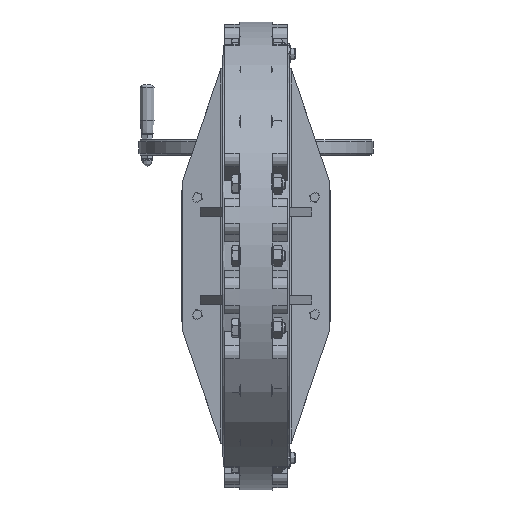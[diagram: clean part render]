
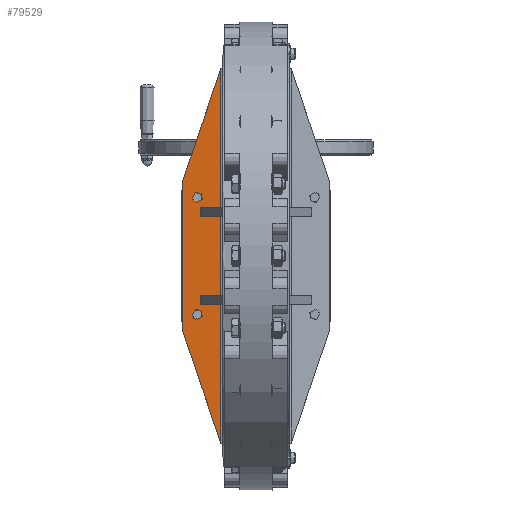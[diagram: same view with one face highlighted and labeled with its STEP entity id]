
A CAD part, front view. The second image highlights one B-rep face of the part: STEP entity #79529.
In plain terms, the highlighted planar face has unit normal (-0.07, -0.998, 0).
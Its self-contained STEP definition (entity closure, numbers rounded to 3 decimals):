
#93=ELLIPSE('',#86108,8.668,8.647);
#94=ELLIPSE('',#86109,8.668,8.647);
#95=ELLIPSE('',#86110,8.668,8.647);
#96=ELLIPSE('',#86111,8.668,8.647);
#2866=FACE_BOUND('',#14230,.T.);
#2867=FACE_BOUND('',#14231,.T.);
#5425=PLANE('',#86107);
#9501=FACE_OUTER_BOUND('',#14229,.T.);
#14229=EDGE_LOOP('',(#63195,#63196,#63197,#63198,#63199,#63200,#63201,#63202,
#63203,#63204,#63205,#63206));
#14230=EDGE_LOOP('',(#63207,#63208));
#14231=EDGE_LOOP('',(#63209,#63210));
#17146=LINE('',#200385,#22818);
#19096=LINE('',#232058,#24768);
#19099=LINE('',#232065,#24771);
#19327=LINE('',#233114,#24999);
#19328=LINE('',#233120,#25000);
#19333=LINE('',#233128,#25005);
#19346=LINE('',#233185,#25018);
#19347=LINE('',#233188,#25019);
#19429=LINE('',#233769,#25101);
#19430=LINE('',#233771,#25102);
#19431=LINE('',#233773,#25103);
#19432=LINE('',#233774,#25104);
#22818=VECTOR('',#92153,10.);
#24768=VECTOR('',#100131,10.);
#24771=VECTOR('',#100136,10.);
#24999=VECTOR('',#100884,10.);
#25000=VECTOR('',#100889,10.);
#25005=VECTOR('',#100896,10.);
#25018=VECTOR('',#100929,10.);
#25019=VECTOR('',#100932,10.);
#25101=VECTOR('',#101180,10.);
#25102=VECTOR('',#101183,10.);
#25103=VECTOR('',#101184,10.);
#25104=VECTOR('',#101185,10.);
#32094=VERTEX_POINT('',#200382);
#32095=VERTEX_POINT('',#200384);
#34858=VERTEX_POINT('',#232056);
#34861=VERTEX_POINT('',#232064);
#35241=VERTEX_POINT('',#233109);
#35242=VERTEX_POINT('',#233112);
#35244=VERTEX_POINT('',#233117);
#35245=VERTEX_POINT('',#233119);
#35261=VERTEX_POINT('',#233175);
#35265=VERTEX_POINT('',#233183);
#35266=VERTEX_POINT('',#233187);
#35427=VERTEX_POINT('',#233772);
#35428=VERTEX_POINT('',#233775);
#35429=VERTEX_POINT('',#233776);
#35430=VERTEX_POINT('',#233779);
#35431=VERTEX_POINT('',#233780);
#40326=EDGE_CURVE('',#32095,#32094,#17146,.T.);
#44631=EDGE_CURVE('',#32094,#34858,#19096,.T.);
#44634=EDGE_CURVE('',#32095,#34861,#19099,.F.);
#45092=EDGE_CURVE('',#35241,#35242,#19327,.T.);
#45094=EDGE_CURVE('',#35245,#35244,#19328,.T.);
#45099=EDGE_CURVE('',#35242,#35245,#19333,.T.);
#45121=EDGE_CURVE('',#35261,#35265,#19346,.T.);
#45122=EDGE_CURVE('',#35265,#35266,#19347,.T.);
#45318=EDGE_CURVE('',#34861,#35244,#19429,.T.);
#45319=EDGE_CURVE('',#35261,#34858,#19430,.T.);
#45320=EDGE_CURVE('',#35266,#35427,#19431,.T.);
#45321=EDGE_CURVE('',#35241,#35427,#19432,.T.);
#45322=EDGE_CURVE('',#35428,#35429,#93,.T.);
#45323=EDGE_CURVE('',#35429,#35428,#94,.T.);
#45324=EDGE_CURVE('',#35430,#35431,#95,.T.);
#45325=EDGE_CURVE('',#35431,#35430,#96,.T.);
#63195=ORIENTED_EDGE('',*,*,#45319,.F.);
#63196=ORIENTED_EDGE('',*,*,#45121,.T.);
#63197=ORIENTED_EDGE('',*,*,#45122,.T.);
#63198=ORIENTED_EDGE('',*,*,#45320,.T.);
#63199=ORIENTED_EDGE('',*,*,#45321,.F.);
#63200=ORIENTED_EDGE('',*,*,#45092,.T.);
#63201=ORIENTED_EDGE('',*,*,#45099,.T.);
#63202=ORIENTED_EDGE('',*,*,#45094,.T.);
#63203=ORIENTED_EDGE('',*,*,#45318,.F.);
#63204=ORIENTED_EDGE('',*,*,#44634,.F.);
#63205=ORIENTED_EDGE('',*,*,#40326,.T.);
#63206=ORIENTED_EDGE('',*,*,#44631,.T.);
#63207=ORIENTED_EDGE('',*,*,#45322,.T.);
#63208=ORIENTED_EDGE('',*,*,#45323,.T.);
#63209=ORIENTED_EDGE('',*,*,#45324,.T.);
#63210=ORIENTED_EDGE('',*,*,#45325,.T.);
#79529=ADVANCED_FACE('',(#9501,#2866,#2867),#5425,.T.);
#86107=AXIS2_PLACEMENT_3D('',#233770,#101181,#101182);
#86108=AXIS2_PLACEMENT_3D('',#233777,#101186,#101187);
#86109=AXIS2_PLACEMENT_3D('',#233778,#101188,#101189);
#86110=AXIS2_PLACEMENT_3D('',#233781,#101190,#101191);
#86111=AXIS2_PLACEMENT_3D('',#233782,#101192,#101193);
#92153=DIRECTION('',(0.,0.,-1.));
#100131=DIRECTION('',(0.324,-0.023,-0.946));
#100136=DIRECTION('',(-0.324,0.023,-0.946));
#100884=DIRECTION('',(-0.998,0.07,0.));
#100889=DIRECTION('',(0.998,-0.07,0.));
#100896=DIRECTION('',(0.,0.,1.));
#100929=DIRECTION('',(-0.998,0.07,0.));
#100932=DIRECTION('',(0.,0.,1.));
#101180=DIRECTION('',(0.,0.,-1.));
#101181=DIRECTION('center_axis',(-0.07,-0.998,
0.));
#101182=DIRECTION('ref_axis',(0.998,-0.07,0.));
#101183=DIRECTION('',(0.,0.,-1.));
#101184=DIRECTION('',(0.998,-0.07,0.));
#101185=DIRECTION('',(0.,0.,-1.));
#101186=DIRECTION('center_axis',(0.07,0.998,0.));
#101187=DIRECTION('ref_axis',(0.998,-0.07,0.));
#101188=DIRECTION('center_axis',(0.07,0.998,0.));
#101189=DIRECTION('ref_axis',(0.998,-0.07,0.));
#101190=DIRECTION('center_axis',(0.07,0.998,0.));
#101191=DIRECTION('ref_axis',(0.998,-0.07,0.));
#101192=DIRECTION('center_axis',(0.07,0.998,0.));
#101193=DIRECTION('ref_axis',(0.998,-0.07,0.));
#200382=CARTESIAN_POINT('',(-125.,543.,-129.5));
#200384=CARTESIAN_POINT('',(-125.,543.,129.5));
#200385=CARTESIAN_POINT('',(-125.,543.,-319.5));
#232056=CARTESIAN_POINT('',(-60.605,538.497,-317.732));
#232058=CARTESIAN_POINT('',(-126.523,543.107,-125.048));
#232064=CARTESIAN_POINT('',(-60.605,538.497,317.732));
#232065=CARTESIAN_POINT('',(-126.523,543.107,125.048));
#233109=CARTESIAN_POINT('',(-60.605,538.497,67.5));
#233112=CARTESIAN_POINT('',(-94.782,540.887,67.5));
#233114=CARTESIAN_POINT('',(-58.5,538.35,67.5));
#233117=CARTESIAN_POINT('',(-60.605,538.497,82.5));
#233119=CARTESIAN_POINT('',(-94.782,540.887,82.5));
#233120=CARTESIAN_POINT('',(-58.5,538.35,82.5));
#233128=CARTESIAN_POINT('',(-94.782,540.887,37.5));
#233175=CARTESIAN_POINT('',(-60.605,538.497,-82.5));
#233183=CARTESIAN_POINT('',(-94.782,540.887,-82.5));
#233185=CARTESIAN_POINT('',(-58.5,538.35,-82.5));
#233187=CARTESIAN_POINT('',(-94.782,540.887,-67.5));
#233188=CARTESIAN_POINT('',(-94.782,540.887,-37.5));
#233769=CARTESIAN_POINT('',(-60.605,538.497,0.));
#233770=CARTESIAN_POINT('Origin',(-83.5,540.098,0.));
#233771=CARTESIAN_POINT('',(-60.605,538.497,0.));
#233772=CARTESIAN_POINT('',(-60.605,538.497,-67.5));
#233773=CARTESIAN_POINT('',(-58.5,538.35,-67.5));
#233774=CARTESIAN_POINT('',(-60.605,538.497,0.));
#233775=CARTESIAN_POINT('',(-108.647,541.856,100.));
#233776=CARTESIAN_POINT('',(-100.,541.252,91.353));
#233777=CARTESIAN_POINT('Origin',(-100.,541.252,100.));
#233778=CARTESIAN_POINT('Origin',(-100.,541.252,100.));
#233779=CARTESIAN_POINT('',(-108.647,541.856,-100.));
#233780=CARTESIAN_POINT('',(-100.,541.252,-108.647));
#233781=CARTESIAN_POINT('Origin',(-100.,541.252,-100.));
#233782=CARTESIAN_POINT('Origin',(-100.,541.252,-100.));
